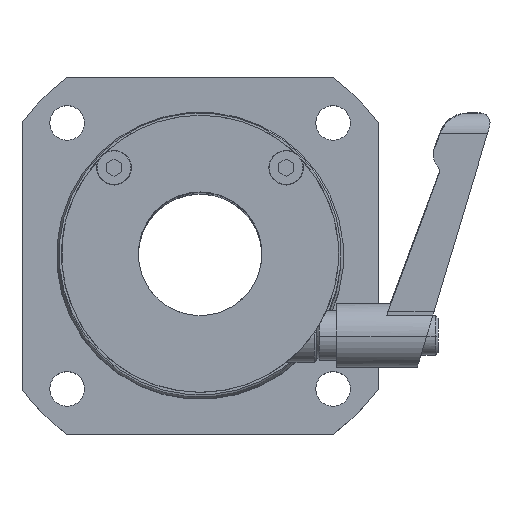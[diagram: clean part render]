
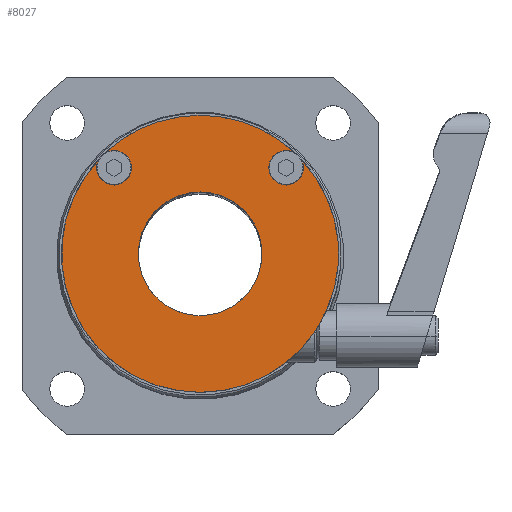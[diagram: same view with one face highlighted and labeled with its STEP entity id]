
A CAD part, top view. The second image highlights one B-rep face of the part: STEP entity #8027.
In plain terms, the highlighted planar face has unit normal (0, 0, 1).
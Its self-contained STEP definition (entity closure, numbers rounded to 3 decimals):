
#57 = EDGE_CURVE ( 'NONE', #8230, #3064, #5805, .T. ) ;
#124 = EDGE_CURVE ( 'NONE', #8230, #10109, #3680, .T. ) ;
#257 = DIRECTION ( 'NONE',  ( 0., -1., 0. ) ) ;
#575 = CARTESIAN_POINT ( 'NONE',  ( -6.779, -0.556, 63.5 ) ) ;
#578 = CARTESIAN_POINT ( 'NONE',  ( -6.779, -13.056, 63.5 ) ) ;
#609 = AXIS2_PLACEMENT_3D ( 'NONE', #5982, #9023, #1947 ) ;
#739 = ORIENTED_EDGE ( 'NONE', *, *, #7663, .F. ) ;
#797 = FACE_BOUND ( 'NONE', #7507, .T. ) ;
#1006 = AXIS2_PLACEMENT_3D ( 'NONE', #6067, #8559, #5462 ) ;
#1022 = CARTESIAN_POINT ( 'NONE',  ( -20.679, 16.844, 63.5 ) ) ;
#1035 = CARTESIAN_POINT ( 'NONE',  ( -6.779, -0.556, 63.5 ) ) ;
#1065 = CARTESIAN_POINT ( 'NONE',  ( -27.216, 18.583, 63.5 ) ) ;
#1116 = EDGE_CURVE ( 'NONE', #7898, #9985, #1890, .T. ) ;
#1135 = CARTESIAN_POINT ( 'NONE',  ( -6.779, -0.556, 63.5 ) ) ;
#1168 = AXIS2_PLACEMENT_3D ( 'NONE', #1035, #5026, #257 ) ;
#1193 = VERTEX_POINT ( 'NONE', #4687 ) ;
#1251 = CARTESIAN_POINT ( 'NONE',  ( -6.779, -0.556, 63.5 ) ) ;
#1286 = VERTEX_POINT ( 'NONE', #578 ) ;
#1795 = ORIENTED_EDGE ( 'NONE', *, *, #57, .T. ) ;
#1818 = CARTESIAN_POINT ( 'NONE',  ( 10.621, 16.844, 63.5 ) ) ;
#1890 = CIRCLE ( 'NONE', #4980, 28. ) ;
#1920 = DIRECTION ( 'NONE',  ( 1., 0., 0. ) ) ;
#1939 = DIRECTION ( 'NONE',  ( 0., -1., 0. ) ) ;
#1947 = DIRECTION ( 'NONE',  ( 1., 0., 0. ) ) ;
#2164 = AXIS2_PLACEMENT_3D ( 'NONE', #8412, #2679, #2898 ) ;
#2187 = ORIENTED_EDGE ( 'NONE', *, *, #3032, .F. ) ;
#2599 = ORIENTED_EDGE ( 'NONE', *, *, #6497, .F. ) ;
#2679 = DIRECTION ( 'NONE',  ( 0., 0., 1. ) ) ;
#2733 = VERTEX_POINT ( 'NONE', #9708 ) ;
#2898 = DIRECTION ( 'NONE',  ( 1., 0., 0. ) ) ;
#2931 = CARTESIAN_POINT ( 'NONE',  ( 10.621, 16.844, 63.5 ) ) ;
#2934 = DIRECTION ( 'NONE',  ( 0., 0., 1. ) ) ;
#2955 = CIRCLE ( 'NONE', #5587, 3.5 ) ;
#2991 = PLANE ( 'NONE',  #1006 ) ;
#3030 = DIRECTION ( 'NONE',  ( 0., 0., 1. ) ) ;
#3032 = EDGE_CURVE ( 'NONE', #2733, #3545, #3344, .T. ) ;
#3064 = VERTEX_POINT ( 'NONE', #10137 ) ;
#3111 = ORIENTED_EDGE ( 'NONE', *, *, #6865, .F. ) ;
#3334 = ORIENTED_EDGE ( 'NONE', *, *, #1116, .T. ) ;
#3344 = CIRCLE ( 'NONE', #9263, 3.5 ) ;
#3513 = AXIS2_PLACEMENT_3D ( 'NONE', #6609, #8227, #5846 ) ;
#3545 = VERTEX_POINT ( 'NONE', #1022 ) ;
#3597 = EDGE_CURVE ( 'NONE', #9985, #1193, #8947, .T. ) ;
#3614 = DIRECTION ( 'NONE',  ( 0., -1., 0. ) ) ;
#3680 = CIRCLE ( 'NONE', #6956, 3.5 ) ;
#3710 = DIRECTION ( 'NONE',  ( 0., -1., 0. ) ) ;
#3812 = DIRECTION ( 'NONE',  ( 0., 0., 1. ) ) ;
#4010 = DIRECTION ( 'NONE',  ( 1., 0., 0. ) ) ;
#4235 = ORIENTED_EDGE ( 'NONE', *, *, #7223, .T. ) ;
#4249 = DIRECTION ( 'NONE',  ( 0., -1., 0. ) ) ;
#4288 = CIRCLE ( 'NONE', #2164, 3.5 ) ;
#4413 = DIRECTION ( 'NONE',  ( 1., 0., 0. ) ) ;
#4440 = DIRECTION ( 'NONE',  ( 0., 0., 1. ) ) ;
#4687 = CARTESIAN_POINT ( 'NONE',  ( 13.658, 18.583, 63.5 ) ) ;
#4980 = AXIS2_PLACEMENT_3D ( 'NONE', #1251, #5053, #1939 ) ;
#5026 = DIRECTION ( 'NONE',  ( 0., 0., 1. ) ) ;
#5028 = DIRECTION ( 'NONE',  ( 0., 0., 1. ) ) ;
#5040 = CIRCLE ( 'NONE', #609, 3.5 ) ;
#5053 = DIRECTION ( 'NONE',  ( 0., 0., 1. ) ) ;
#5205 = CARTESIAN_POINT ( 'NONE',  ( 7.121, 16.844, 63.5 ) ) ;
#5444 = CIRCLE ( 'NONE', #6270, 3.5 ) ;
#5462 = DIRECTION ( 'NONE',  ( 0., -1., 0. ) ) ;
#5587 = AXIS2_PLACEMENT_3D ( 'NONE', #2931, #3812, #4413 ) ;
#5605 = ORIENTED_EDGE ( 'NONE', *, *, #124, .F. ) ;
#5686 = EDGE_CURVE ( 'NONE', #7707, #1286, #7047, .T. ) ;
#5801 = CARTESIAN_POINT ( 'NONE',  ( -6.779, 11.944, 63.5 ) ) ;
#5805 = CIRCLE ( 'NONE', #3513, 28. ) ;
#5846 = DIRECTION ( 'NONE',  ( 0., -1., 0. ) ) ;
#5921 = CIRCLE ( 'NONE', #7410, 28. ) ;
#5982 = CARTESIAN_POINT ( 'NONE',  ( -24.179, 16.844, 63.5 ) ) ;
#6067 = CARTESIAN_POINT ( 'NONE',  ( -6.779, -0.556, 63.5 ) ) ;
#6071 = CIRCLE ( 'NONE', #1168, 12.5 ) ;
#6225 = VERTEX_POINT ( 'NONE', #6339 ) ;
#6270 = AXIS2_PLACEMENT_3D ( 'NONE', #9467, #10177, #8467 ) ;
#6316 = CARTESIAN_POINT ( 'NONE',  ( -24.179, 16.844, 63.5 ) ) ;
#6339 = CARTESIAN_POINT ( 'NONE',  ( 14.121, 16.844, 63.5 ) ) ;
#6427 = EDGE_CURVE ( 'NONE', #10109, #6225, #2955, .T. ) ;
#6497 = EDGE_CURVE ( 'NONE', #1286, #7707, #6071, .T. ) ;
#6609 = CARTESIAN_POINT ( 'NONE',  ( -6.779, -0.556, 63.5 ) ) ;
#6865 = EDGE_CURVE ( 'NONE', #3545, #7090, #5040, .T. ) ;
#6869 = EDGE_LOOP ( 'NONE', ( #3334, #9728, #6955, #8535, #5605, #1795, #4235, #3111, #2187, #739 ) ) ;
#6955 = ORIENTED_EDGE ( 'NONE', *, *, #7813, .F. ) ;
#6956 = AXIS2_PLACEMENT_3D ( 'NONE', #1818, #5028, #1920 ) ;
#7047 = CIRCLE ( 'NONE', #9705, 12.5 ) ;
#7090 = VERTEX_POINT ( 'NONE', #7893 ) ;
#7223 = EDGE_CURVE ( 'NONE', #3064, #7090, #5921, .T. ) ;
#7410 = AXIS2_PLACEMENT_3D ( 'NONE', #575, #2934, #3710 ) ;
#7507 = EDGE_LOOP ( 'NONE', ( #9299, #2599 ) ) ;
#7550 = CARTESIAN_POINT ( 'NONE',  ( 12.361, 19.881, 63.5 ) ) ;
#7663 = EDGE_CURVE ( 'NONE', #7898, #2733, #4288, .T. ) ;
#7707 = VERTEX_POINT ( 'NONE', #5801 ) ;
#7813 = EDGE_CURVE ( 'NONE', #6225, #1193, #5444, .T. ) ;
#7893 = CARTESIAN_POINT ( 'NONE',  ( -25.918, 19.881, 63.5 ) ) ;
#7898 = VERTEX_POINT ( 'NONE', #1065 ) ;
#7968 = AXIS2_PLACEMENT_3D ( 'NONE', #8161, #9815, #3614 ) ;
#8027 = ADVANCED_FACE ( 'NONE', ( #8504, #797 ), #2991, .T. ) ;
#8161 = CARTESIAN_POINT ( 'NONE',  ( -6.779, -0.556, 63.5 ) ) ;
#8227 = DIRECTION ( 'NONE',  ( 0., 0., 1. ) ) ;
#8230 = VERTEX_POINT ( 'NONE', #7550 ) ;
#8412 = CARTESIAN_POINT ( 'NONE',  ( -24.179, 16.844, 63.5 ) ) ;
#8467 = DIRECTION ( 'NONE',  ( 1., 0., 0. ) ) ;
#8504 = FACE_OUTER_BOUND ( 'NONE', #6869, .T. ) ;
#8535 = ORIENTED_EDGE ( 'NONE', *, *, #6427, .F. ) ;
#8559 = DIRECTION ( 'NONE',  ( 0., 0., 1. ) ) ;
#8947 = CIRCLE ( 'NONE', #7968, 28. ) ;
#9023 = DIRECTION ( 'NONE',  ( 0., 0., 1. ) ) ;
#9263 = AXIS2_PLACEMENT_3D ( 'NONE', #6316, #3030, #4010 ) ;
#9299 = ORIENTED_EDGE ( 'NONE', *, *, #5686, .F. ) ;
#9429 = CARTESIAN_POINT ( 'NONE',  ( -6.779, -28.556, 63.5 ) ) ;
#9467 = CARTESIAN_POINT ( 'NONE',  ( 10.621, 16.844, 63.5 ) ) ;
#9705 = AXIS2_PLACEMENT_3D ( 'NONE', #1135, #4440, #4249 ) ;
#9708 = CARTESIAN_POINT ( 'NONE',  ( -27.679, 16.844, 63.5 ) ) ;
#9728 = ORIENTED_EDGE ( 'NONE', *, *, #3597, .T. ) ;
#9815 = DIRECTION ( 'NONE',  ( 0., 0., 1. ) ) ;
#9985 = VERTEX_POINT ( 'NONE', #9429 ) ;
#10109 = VERTEX_POINT ( 'NONE', #5205 ) ;
#10137 = CARTESIAN_POINT ( 'NONE',  ( -6.779, 27.444, 63.5 ) ) ;
#10177 = DIRECTION ( 'NONE',  ( 0., 0., 1. ) ) ;
